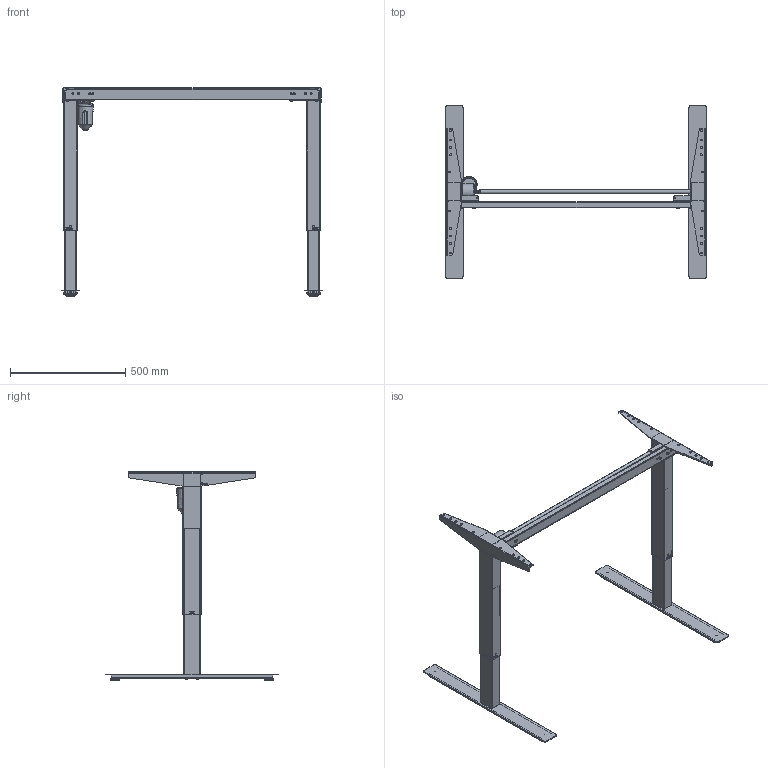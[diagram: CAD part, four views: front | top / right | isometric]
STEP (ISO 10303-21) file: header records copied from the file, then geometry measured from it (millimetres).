
FILE_DESCRIPTION (( 'STEP AP203' ), '1' );
FILE_NAME ('Tech-draw_501-47_XX112.STEP', '2020-12-21T07:34:43', ( '' ), ( '' ), 'SwSTEP 2.0', 'SolidWorks 2020', '' );
FILE_SCHEMA (( 'CONFIG_CONTROL_DESIGN' ));
Length unit declared in the file: millimetre
Products named in the file (35): 352300_shell view; 345610_shell view; 348720_shell view; 151440_chrome; 352690; 352160; 324520; 144260_112; 324520_silver; 150660_chrome; 150630_chrome; 344820_shell view; 340540_shell view; 347910_112; 352150; 332570; 326900; 150650_chrome; 341800; 151650_501-47 XC112; 352360_silver; 340760; 352610; 140860_chrome1; 304650; 140850_chrome1; 345600; Tech-draw_501-47_XX112; 340560; 344430_silver; 347920_112; 352350_silver; 341220
Assembly tree (60 placements, depth 5):
  Tech-draw_501-47_XX112
    151650_501-47 XC112
      347910_112
      144260_112
        347920_112
        340560
        341220
      150650_chrome
        140860_chrome1
          345610_shell view
          344820_shell view
          348720_shell view
        150630_chrome
          352300_shell view
          352690
        324520_silver  x2
        341800  x2
        326900  x2
        344430_silver
        352360_silver
        352350_silver
        151440_chrome
          352160
          352150
        304650  x4
        352610
      150660_chrome
        140850_chrome1
          345600
          344820_shell view
          340540_shell view
        150630_chrome
          352300_shell view
          352690
        324520  x2
        341800  x2
        352350_silver
        352360_silver
        151440_chrome
          352160
          352150
        304650  x4
      340760  x4
      332570  x4
Bounding box: 1129 x 750 x 901.26 mm (x, y, z)
Volume: 2775456.3 mm3; surface area: 2463337.5 mm2
Topology: 50 solids, 50 shells, 4438 faces, 11338 edges, 7135 vertices
Faces by surface type: plane 2313, cylinder 1208, bspline 636, cone 133, torus 116, sphere 32
Full cylindrical faces by diameter (mm): 2.8 x4, 3 x2, 4.6 x4, 5 x32, 6 x18, 6.7 x8, 7 x8, 7.6 x4, 8 x12, 8.5 x2, 10 x8, 11.9 x2, 12 x1, 13 x2, 15 x4, 16 x2, 18 x1, 20 x1, 24 x1, 37.6 x8, 60 x1
Entity records: 119222 total; most frequent: CARTESIAN_POINT 52383, ORIENTED_EDGE 13418, DIRECTION 12180, EDGE_CURVE 6709, VERTEX_POINT 4311, AXIS2_PLACEMENT_3D 4237, VECTOR 3706, LINE 3706
